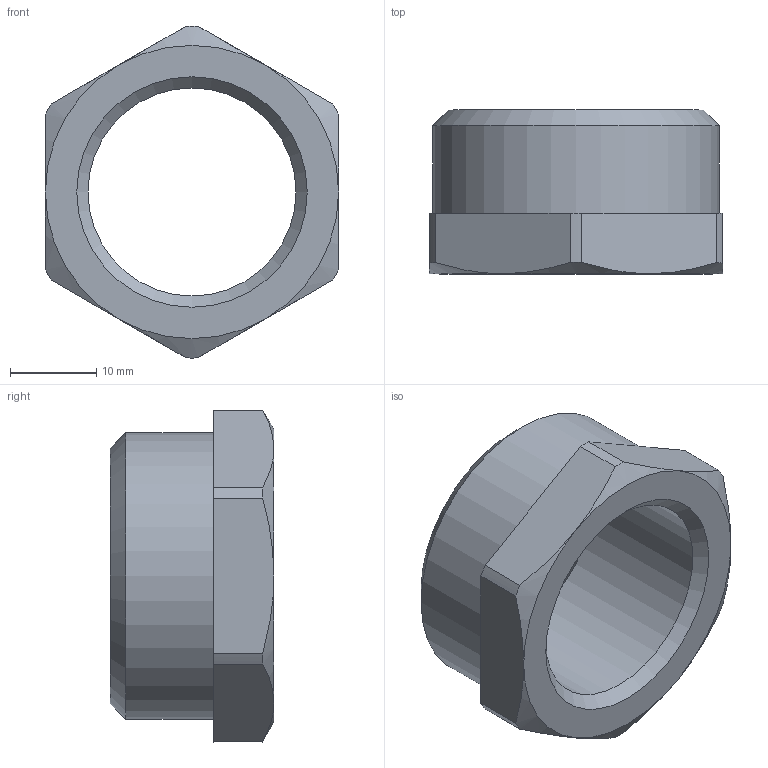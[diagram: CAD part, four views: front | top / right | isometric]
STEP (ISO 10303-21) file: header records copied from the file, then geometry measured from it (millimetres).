
FILE_DESCRIPTION(('STEP AP203'), '1');
FILE_NAME('ÂÐ.753128.031 - VTr.581.N.0605 Ôèò. ðåçüá', '2024-07-04T10:06:39', ('Boss'), (''), 'C3D Converter', 'C3D Toolkit', '');
FILE_SCHEMA(('CONFIG_CONTROL_DESIGN'));
Length unit declared in the file: millimetre
Products named in the file (1): ВР.753128.031
Bounding box: 34 x 19 x 38.5 mm (x, y, z)
Volume: 8399.8 mm3; surface area: 4324.3 mm2
Topology: 1 solids, 1 shells, 26 faces, 60 edges, 37 vertices
Faces by surface type: plane 9, cone 9, cylinder 8
Full cylindrical faces by diameter (mm): 24.118 x1, 33.249 x1
Entity records: 1053 total; most frequent: CARTESIAN_POINT 487, DIRECTION 114, ORIENTED_EDGE 102, EDGE_CURVE 51, AXIS2_PLACEMENT_3D 48, VERTEX_POINT 35, EDGE_LOOP 32, ADVANCED_FACE 24
